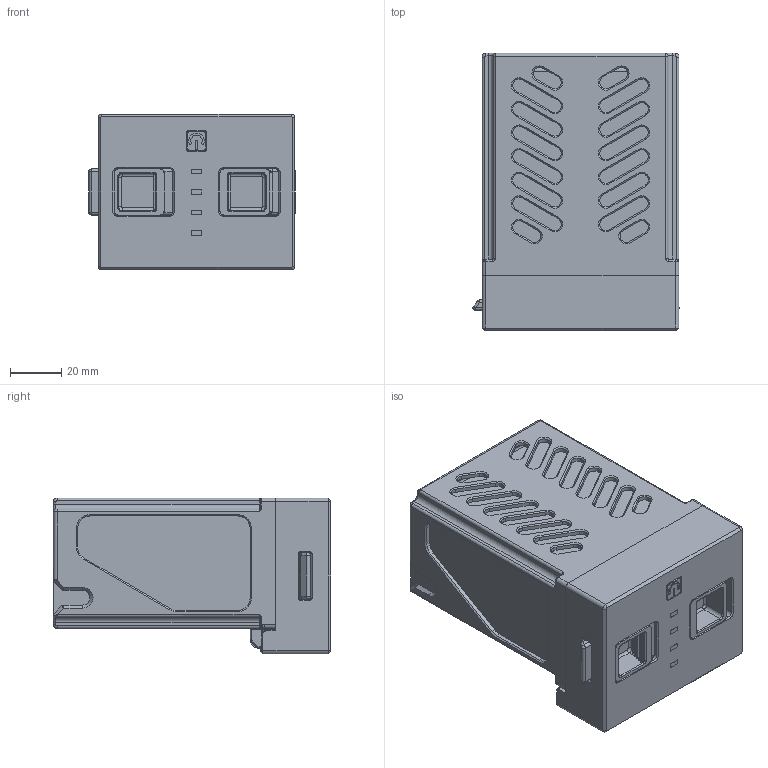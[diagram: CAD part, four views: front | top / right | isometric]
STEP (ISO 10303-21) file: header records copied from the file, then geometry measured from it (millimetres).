
FILE_DESCRIPTION (( 'STEP AP203' ), '1' );
FILE_NAME ('HT-PB-24vPowerbattery-04A.STEP', '2026-04-09T07:05:50', ( '' ), ( '' ), 'SwSTEP 2.0', 'SolidWorks 2024', '' );
FILE_SCHEMA (( 'CONFIG_CONTROL_DESIGN' ));
Length unit declared in the file: millimetre
Products named in the file (12): HT-PB-24PW-02A-电池卡舌; 21700电池组-2x3排列; LGF3917-6.1; HT-PB-01A-散热片; HT-PB-24PW-02B-电源按钮; HT-PB-24PW-02A-电池内壳; HT-PB-24PW-02A-电池下壳; HT-PB-24vPowerbattery-04A; 灯板; HT-PB-24PW-01B-电池上壳; 3D_BMS-6S-V2.6.0905_2025-09-05; HT-PB--24PW-01B-卡舌盖板
Assembly tree (15 placements, depth 2):
  HT-PB-24vPowerbattery-04A
    HT-PB-24PW-01B-电池上壳
    HT-PB-24PW-02A-电池下壳
    21700电池组-2x3排列
    HT-PB-24PW-02A-电池卡舌  x2
    HT-PB-24PW-02B-电源按钮
    LGF3917-6.1  x4
    HT-PB--24PW-01B-卡舌盖板
    灯板
    HT-PB-24PW-02A-电池内壳
    3D_BMS-6S-V2.6.0905_2025-09-05
    HT-PB-01A-散热片
Bounding box: 80.62 x 108.5 x 61 mm (x, y, z)
Volume: 324899.6 mm3; surface area: 156736.8 mm2
Topology: 18 solids, 18 shells, 3181 faces, 8247 edges, 5045 vertices
Faces by surface type: plane 1341, cylinder 981, cone 337, bspline 326, torus 144, sphere 52
Entity records: 92689 total; most frequent: CARTESIAN_POINT 20811, ORIENTED_EDGE 15030, DIRECTION 14323, EDGE_CURVE 7515, AXIS2_PLACEMENT_3D 4806, LINE 4711, VECTOR 4711, VERTEX_POINT 4661
